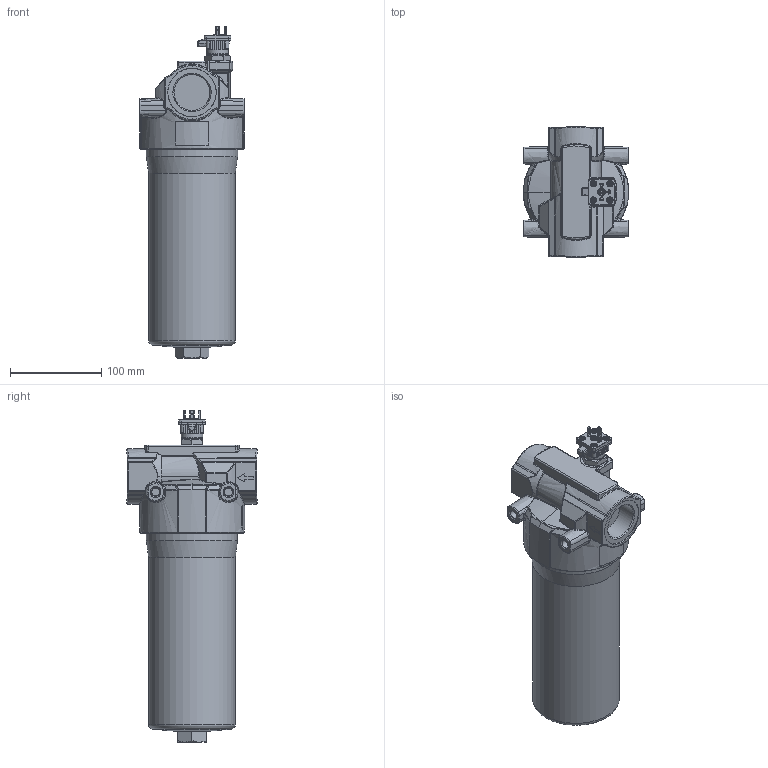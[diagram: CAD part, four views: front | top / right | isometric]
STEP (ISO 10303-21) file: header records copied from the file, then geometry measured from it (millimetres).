
FILE_DESCRIPTION((''),'2;1');
FILE_NAME('U:\Users\i.maeder\34421400_D232-256ED8.stp', '2016-10-25T08:17:20',('User'),('SDRC'),'I-DEAS Master Series 9','UNIX', 'Yes');
FILE_SCHEMA(('AUTOMOTIVE_DESIGN { 1 0 10303 214 1 1 1 1 }'));
Length unit declared in the file: millimetre
Products named in the file (1): 34421400
Bounding box: 116 x 143 x 363.9 mm (x, y, z)
Volume: 2466647.9 mm3; surface area: 139979.8 mm2
Topology: 1 solids, 3 shells, 1313 faces, 3477 edges, 2175 vertices
Faces by surface type: bspline 1313
Entity records: 54404 total; most frequent: CARTESIAN_POINT 34737, ORIENTED_EDGE 6878, EDGE_CURVE 3439, VERTEX_POINT 2168, B_SPLINE_CURVE_WITH_KNOTS 2101, EDGE_LOOP 1355, FACE_OUTER_BOUND 1313, ADVANCED_FACE 1313
